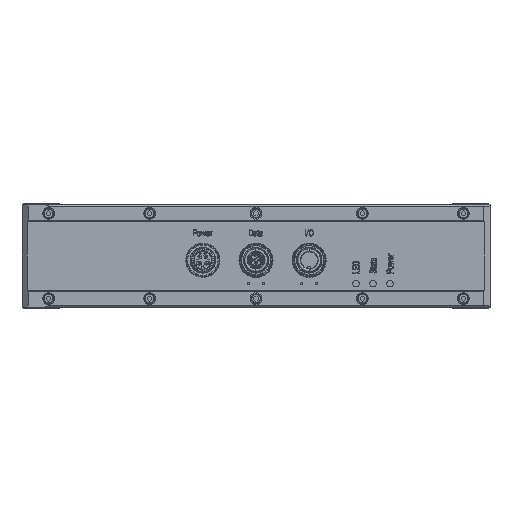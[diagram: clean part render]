
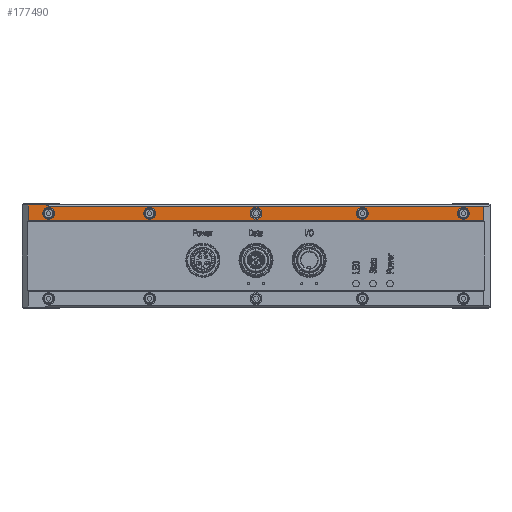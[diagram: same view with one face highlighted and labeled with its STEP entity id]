
A CAD part, front view. The second image highlights one B-rep face of the part: STEP entity #177490.
In plain terms, the highlighted planar face has unit normal (0, -1, 0).
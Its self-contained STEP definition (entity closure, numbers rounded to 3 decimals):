
#55527=DIRECTION('',(1.,0.,0.));
#55528=VECTOR('',#55527,204.5);
#55529=CARTESIAN_POINT('',(12.5,-11.,-0.5));
#55530=LINE('',#55529,#55528);
#55534=CARTESIAN_POINT('',(11.,-11.,0.));
#55535=CARTESIAN_POINT('',(11.049,-11.,-0.029));
#55536=CARTESIAN_POINT('',(11.143,-11.,-0.084));
#55537=CARTESIAN_POINT('',(11.276,-11.,-0.156));
#55538=CARTESIAN_POINT('',(11.403,-11.,-0.22));
#55539=CARTESIAN_POINT('',(11.515,-11.,-0.271));
#55540=CARTESIAN_POINT('',(11.648,-11.,-0.327));
#55541=CARTESIAN_POINT('',(11.765,-11.,-0.37));
#55542=CARTESIAN_POINT('',(11.88,-11.,-0.407));
#55543=CARTESIAN_POINT('',(11.988,-11.,-0.436));
#55544=CARTESIAN_POINT('',(12.091,-11.,-0.46));
#55545=CARTESIAN_POINT('',(12.196,-11.,-0.478));
#55546=CARTESIAN_POINT('',(12.298,-11.,-0.491));
#55547=CARTESIAN_POINT('',(12.4,-11.,-0.498));
#55548=CARTESIAN_POINT('',(12.467,-11.,-0.5));
#55549=CARTESIAN_POINT('',(12.5,-11.,-0.5));
#55554=DIRECTION('',(0.,0.,1.));
#55555=VECTOR('',#55554,7.);
#55556=CARTESIAN_POINT('',(217.,-11.,-7.5));
#55557=LINE('',#55556,#55555);
#55561=DIRECTION('',(1.,0.,0.));
#55562=VECTOR('',#55561,214.);
#55563=CARTESIAN_POINT('',(3.,-11.,-7.5));
#55564=LINE('',#55563,#55562);
#55568=DIRECTION('',(0.,0.,-1.));
#55569=VECTOR('',#55568,7.5);
#55570=CARTESIAN_POINT('',(3.,-11.,0.));
#55571=LINE('',#55570,#55569);
#55575=CARTESIAN_POINT('',(207.5,-11.,-4.));
#55576=DIRECTION('',(0.,1.,0.));
#55577=DIRECTION('',(1.,0.,0.));
#55578=AXIS2_PLACEMENT_3D('',#55575,#55576,#55577);
#55583=CARTESIAN_POINT('',(207.5,-11.,-4.));
#55584=DIRECTION('',(0.,1.,0.));
#55585=DIRECTION('',(-1.,0.,0.));
#55586=AXIS2_PLACEMENT_3D('',#55583,#55584,#55585);
#55591=CARTESIAN_POINT('',(160.,-11.,-4.));
#55592=DIRECTION('',(0.,1.,0.));
#55593=DIRECTION('',(1.,0.,0.));
#55594=AXIS2_PLACEMENT_3D('',#55591,#55592,#55593);
#55599=CARTESIAN_POINT('',(160.,-11.,-4.));
#55600=DIRECTION('',(0.,1.,0.));
#55601=DIRECTION('',(-1.,0.,0.));
#55602=AXIS2_PLACEMENT_3D('',#55599,#55600,#55601);
#55607=CARTESIAN_POINT('',(110.,-11.,-4.));
#55608=DIRECTION('',(0.,1.,0.));
#55609=DIRECTION('',(1.,0.,0.));
#55610=AXIS2_PLACEMENT_3D('',#55607,#55608,#55609);
#55615=CARTESIAN_POINT('',(110.,-11.,-4.));
#55616=DIRECTION('',(0.,1.,0.));
#55617=DIRECTION('',(-1.,0.,0.));
#55618=AXIS2_PLACEMENT_3D('',#55615,#55616,#55617);
#55623=CARTESIAN_POINT('',(60.,-11.,-4.));
#55624=DIRECTION('',(0.,1.,0.));
#55625=DIRECTION('',(1.,0.,0.));
#55626=AXIS2_PLACEMENT_3D('',#55623,#55624,#55625);
#55631=CARTESIAN_POINT('',(60.,-11.,-4.));
#55632=DIRECTION('',(0.,1.,0.));
#55633=DIRECTION('',(-1.,0.,0.));
#55634=AXIS2_PLACEMENT_3D('',#55631,#55632,#55633);
#55639=CARTESIAN_POINT('',(12.5,-11.,-4.));
#55640=DIRECTION('',(0.,1.,0.));
#55641=DIRECTION('',(1.,0.,0.));
#55642=AXIS2_PLACEMENT_3D('',#55639,#55640,#55641);
#55647=CARTESIAN_POINT('',(12.5,-11.,-4.));
#55648=DIRECTION('',(0.,1.,0.));
#55649=DIRECTION('',(-1.,0.,0.));
#55650=AXIS2_PLACEMENT_3D('',#55647,#55648,#55649);
#56418=DIRECTION('',(1.,0.,0.));
#56419=VECTOR('',#56418,8.);
#56420=CARTESIAN_POINT('',(3.,-11.,0.));
#56421=LINE('',#56420,#56419);
#116495=CARTESIAN_POINT('',(3.,-11.,-7.5));
#116497=VERTEX_POINT('',#116495);
#116499=CARTESIAN_POINT('',(3.,-11.,0.));
#116500=VERTEX_POINT('',#116499);
#116503=CARTESIAN_POINT('',(217.,-11.,-7.5));
#116505=VERTEX_POINT('',#116503);
#116509=CARTESIAN_POINT('',(217.,-11.,
-0.5));
#116510=VERTEX_POINT('',#116509);
#117755=VERTEX_POINT('',#55534);
#117756=VERTEX_POINT('',#55549);
#122250=CARTESIAN_POINT('',(204.75,-11.,-4.));
#122252=VERTEX_POINT('',#122250);
#122253=CARTESIAN_POINT('',(210.25,-11.,-4.));
#122254=VERTEX_POINT('',#122253);
#122269=CARTESIAN_POINT('',(157.25,-11.,-4.));
#122271=VERTEX_POINT('',#122269);
#122272=CARTESIAN_POINT('',(162.75,-11.,-4.));
#122273=VERTEX_POINT('',#122272);
#122288=CARTESIAN_POINT('',(107.25,-11.,-4.));
#122290=VERTEX_POINT('',#122288);
#122291=CARTESIAN_POINT('',(112.75,-11.,-4.));
#122292=VERTEX_POINT('',#122291);
#122307=CARTESIAN_POINT('',(57.25,-11.,-4.));
#122309=VERTEX_POINT('',#122307);
#122310=CARTESIAN_POINT('',(62.75,-11.,-4.));
#122311=VERTEX_POINT('',#122310);
#122326=CARTESIAN_POINT('',(9.75,-11.,-4.));
#122328=VERTEX_POINT('',#122326);
#122329=CARTESIAN_POINT('',(15.25,-11.,-4.));
#122330=VERTEX_POINT('',#122329);
#177445=CARTESIAN_POINT('',(110.,-11.,-3.75));
#177446=DIRECTION('',(0.,1.,0.));
#177447=DIRECTION('',(-1.,0.,0.));
#177448=AXIS2_PLACEMENT_3D('',#177445,#177446,#177447);
#177449=PLANE('',#177448);
#177450=ORIENTED_EDGE('',*,*,#177431,.T.);
#177451=ORIENTED_EDGE('',*,*,#177414,.T.);
#177452=ORIENTED_EDGE('',*,*,#135018,.F.);
#177453=ORIENTED_EDGE('',*,*,#134993,.F.);
#177455=ORIENTED_EDGE('',*,*,#177454,.F.);
#177457=ORIENTED_EDGE('',*,*,#177456,.T.);
#177458=EDGE_LOOP('',(#177450,#177451,#177452,#177453,#177455,#177457));
#177459=FACE_OUTER_BOUND('',#177458,.F.);
#177461=ORIENTED_EDGE('',*,*,#177460,.F.);
#177463=ORIENTED_EDGE('',*,*,#177462,.F.);
#177464=EDGE_LOOP('',(#177461,#177463));
#177465=FACE_BOUND('',#177464,.F.);
#177467=ORIENTED_EDGE('',*,*,#177466,.F.);
#177469=ORIENTED_EDGE('',*,*,#177468,.F.);
#177470=EDGE_LOOP('',(#177467,#177469));
#177471=FACE_BOUND('',#177470,.F.);
#177473=ORIENTED_EDGE('',*,*,#177472,.F.);
#177475=ORIENTED_EDGE('',*,*,#177474,.F.);
#177476=EDGE_LOOP('',(#177473,#177475));
#177477=FACE_BOUND('',#177476,.F.);
#177479=ORIENTED_EDGE('',*,*,#177478,.F.);
#177481=ORIENTED_EDGE('',*,*,#177480,.F.);
#177482=EDGE_LOOP('',(#177479,#177481));
#177483=FACE_BOUND('',#177482,.F.);
#177485=ORIENTED_EDGE('',*,*,#177484,.F.);
#177487=ORIENTED_EDGE('',*,*,#177486,.F.);
#177488=EDGE_LOOP('',(#177485,#177487));
#177489=FACE_BOUND('',#177488,.F.);
#55550=B_SPLINE_CURVE_WITH_KNOTS('',3,(#55534,#55535,#55536,#55537,#55538,
#55539,#55540,#55541,#55542,#55543,#55544,#55545,#55546,#55547,#55548,#55549),
.UNSPECIFIED.,.F.,.F.,(4,1,1,1,1,1,1,1,1,1,1,1,1,4),(0.,0.077,
0.154,0.231,0.308,0.385,
0.462,0.538,0.615,0.692,
0.769,0.846,0.923,1.),.UNSPECIFIED.);
#55579=CIRCLE('',#55578,2.75);
#55587=CIRCLE('',#55586,2.75);
#55595=CIRCLE('',#55594,2.75);
#55603=CIRCLE('',#55602,2.75);
#55611=CIRCLE('',#55610,2.75);
#55619=CIRCLE('',#55618,2.75);
#55627=CIRCLE('',#55626,2.75);
#55635=CIRCLE('',#55634,2.75);
#55643=CIRCLE('',#55642,2.75);
#55651=CIRCLE('',#55650,2.75);
#134993=EDGE_CURVE('',#116497,#116505,#55564,.T.);
#135018=EDGE_CURVE('',#116505,#116510,#55557,.T.);
#177414=EDGE_CURVE('',#117756,#116510,#55530,.T.);
#177431=EDGE_CURVE('',#117755,#117756,#55550,.T.);
#177454=EDGE_CURVE('',#116500,#116497,#55571,.T.);
#177456=EDGE_CURVE('',#116500,#117755,#56421,.T.);
#177460=EDGE_CURVE('',#122254,#122252,#55579,.T.);
#177462=EDGE_CURVE('',#122252,#122254,#55587,.T.);
#177466=EDGE_CURVE('',#122273,#122271,#55595,.T.);
#177468=EDGE_CURVE('',#122271,#122273,#55603,.T.);
#177472=EDGE_CURVE('',#122292,#122290,#55611,.T.);
#177474=EDGE_CURVE('',#122290,#122292,#55619,.T.);
#177478=EDGE_CURVE('',#122311,#122309,#55627,.T.);
#177480=EDGE_CURVE('',#122309,#122311,#55635,.T.);
#177484=EDGE_CURVE('',#122330,#122328,#55643,.T.);
#177486=EDGE_CURVE('',#122328,#122330,#55651,.T.);
#177490=ADVANCED_FACE('',(#177459,#177465,#177471,#177477,#177483,#177489),
#177449,.F.);
